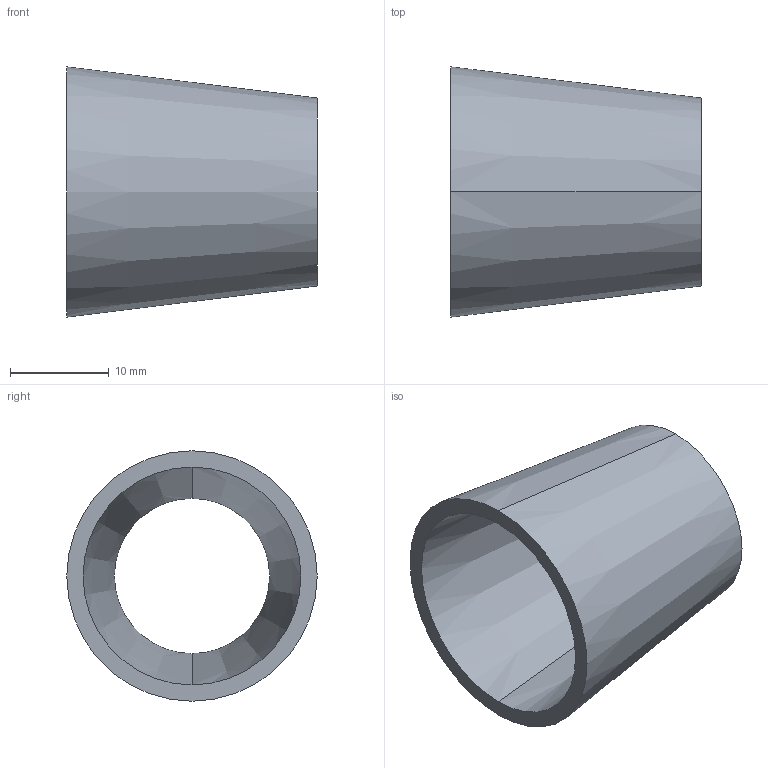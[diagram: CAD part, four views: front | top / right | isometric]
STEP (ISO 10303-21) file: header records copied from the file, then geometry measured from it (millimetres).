
FILE_DESCRIPTION (( 'STEP AP214' ), '1' );
FILE_NAME ('V31W-6L 1.0X.75 REV2.STEP', '2025-07-17T18:57:12', ( '' ), ( '' ), 'SwSTEP 2.0', 'SolidWorks 2022', '' );
FILE_SCHEMA (( 'AUTOMOTIVE_DESIGN' ));
Length unit declared in the file: inch
Products named in the file (1): V31W-6L 1.0X.75 REV2
Bounding box: 25.4 x 25.4 x 25.4 mm (x, y, z)
Volume: 2710.5 mm3; surface area: 3522.4 mm2
Topology: 1 solids, 1 shells, 6 faces, 12 edges, 8 vertices
Faces by surface type: cone 4, plane 2
Entity records: 208 total; most frequent: DIRECTION 34, CARTESIAN_POINT 27, ORIENTED_EDGE 24, AXIS2_PLACEMENT_3D 15, EDGE_CURVE 12, VERTEX_POINT 8, CIRCLE 8, EDGE_LOOP 8
